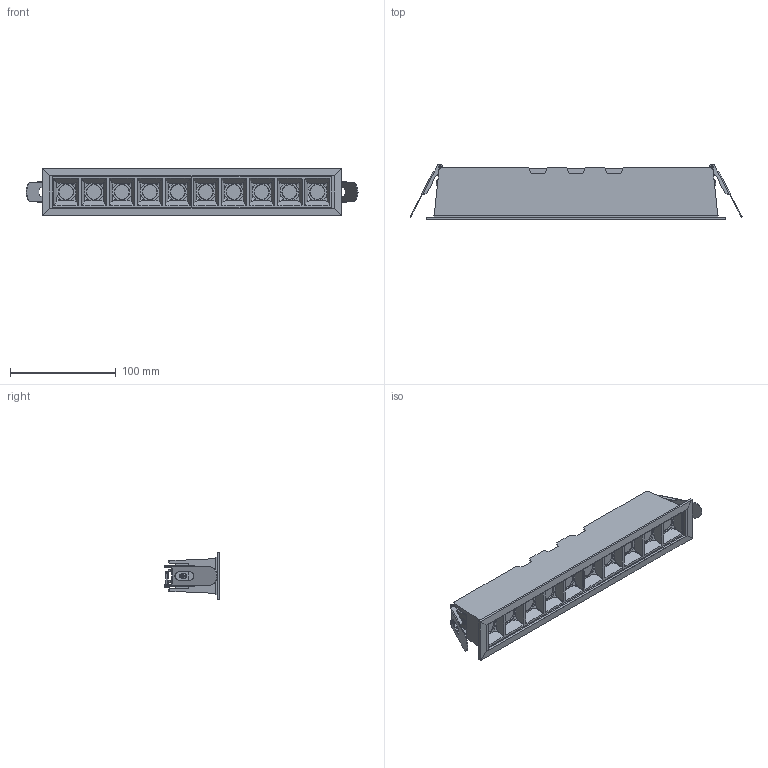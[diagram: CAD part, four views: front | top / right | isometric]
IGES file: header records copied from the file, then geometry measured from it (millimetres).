
Start section: SolidWorks IGES file using analytic representation for surfaces
Global section: file name: P:\Tecnico\Progettazione\Marketing\Sito web\Sito 2024 [BCPT]\Sito 2024 - Allegati\Modelli 3D-2D\# Lavorazione\COMPLETO\Rally trim\XR178__.028.____.IGS; native system: SolidWorks 2024; preprocessor: SolidWorks 2024; author: panzeri46; date: 250530.142222; units: millimetre
Bounding box: 313.99 x 52.65 x 45 mm (x, y, z)
Volume: 168177.9 mm3; surface area: 172162.1 mm2
Topology: 29 solids, 29 shells, 2700 faces, 7243 edges, 4610 vertices
Faces by surface type: plane 1448, revolution 1110, bspline 142
